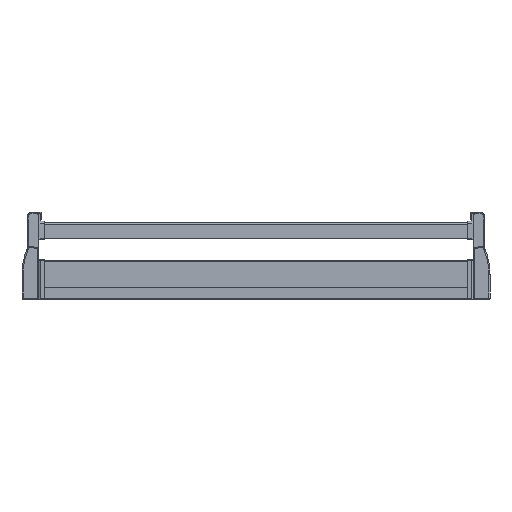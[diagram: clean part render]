
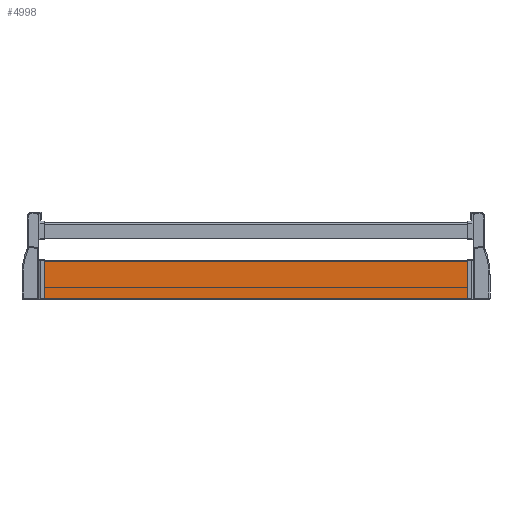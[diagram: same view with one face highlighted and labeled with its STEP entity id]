
A CAD part, top view. The second image highlights one B-rep face of the part: STEP entity #4998.
In plain terms, the highlighted planar face has unit normal (0, 0, 1).
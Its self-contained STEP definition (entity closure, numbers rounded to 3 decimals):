
#3024 = CARTESIAN_POINT ( 'NONE',  ( 385.8, -92.5, 1.4 ) ) ;
#3025 = VECTOR ( 'NONE', #3026, 1000. ) ;
#3026 = DIRECTION ( 'NONE',  ( 0., 1., 0. ) ) ;
#3027 = CARTESIAN_POINT ( 'NONE',  ( 385.8, -92.5, 1.4 ) ) ;
#3028 = LINE ( 'NONE', #3027, #3025 ) ;
#4584 = VERTEX_POINT ( 'NONE', #6757 ) ;
#4750 = EDGE_CURVE ( 'NONE', #4751, #4584, #3028, .T. ) ;
#4751 = VERTEX_POINT ( 'NONE', #3024 ) ;
#4960 = EDGE_CURVE ( 'NONE', #4991, #4996, #6943, .T. ) ;
#4972 = EDGE_CURVE ( 'NONE', #4751, #4991, #6921, .T. ) ;
#4977 = ORIENTED_EDGE ( 'NONE', *, *, #4978, .T. ) ;
#4978 = EDGE_CURVE ( 'NONE', #4584, #4996, #6971, .T. ) ;
#4981 = ORIENTED_EDGE ( 'NONE', *, *, #4960, .F. ) ;
#4991 = VERTEX_POINT ( 'NONE', #6957 ) ;
#4995 = ORIENTED_EDGE ( 'NONE', *, *, #4750, .T. ) ;
#4996 = VERTEX_POINT ( 'NONE', #7008 ) ;
#4998 = ADVANCED_FACE ( 'NONE', ( #7002 ), #7001, .F. ) ;
#5026 = EDGE_LOOP ( 'NONE', ( #5027, #4995, #4977, #4981 ) ) ;
#5027 = ORIENTED_EDGE ( 'NONE', *, *, #4972, .F. ) ;
#6757 = CARTESIAN_POINT ( 'NONE',  ( 385.8, -23., 1.4 ) ) ;
#6918 = DIRECTION ( 'NONE',  ( -1., 0., 0. ) ) ;
#6919 = VECTOR ( 'NONE', #6918, 1000. ) ;
#6920 = CARTESIAN_POINT ( 'NONE',  ( 459.556, -92.5, 1.4 ) ) ;
#6921 = LINE ( 'NONE', #6920, #6919 ) ;
#6940 = DIRECTION ( 'NONE',  ( 0., 1., 0. ) ) ;
#6941 = VECTOR ( 'NONE', #6940, 1000. ) ;
#6942 = CARTESIAN_POINT ( 'NONE',  ( -385.8, -92.5, 1.4 ) ) ;
#6943 = LINE ( 'NONE', #6942, #6941 ) ;
#6957 = CARTESIAN_POINT ( 'NONE',  ( -385.8, -92.5, 1.4 ) ) ;
#6968 = DIRECTION ( 'NONE',  ( -1., 0., 0. ) ) ;
#6969 = VECTOR ( 'NONE', #6968, 1000. ) ;
#6970 = CARTESIAN_POINT ( 'NONE',  ( 459.556, -23., 1.4 ) ) ;
#6971 = LINE ( 'NONE', #6970, #6969 ) ;
#6996 = DIRECTION ( 'NONE',  ( 0., 1., 0. ) ) ;
#6997 = DIRECTION ( 'NONE',  ( 0., 0., -1. ) ) ;
#6998 = CARTESIAN_POINT ( 'NONE',  ( 459.556, -92.5, 1.4 ) ) ;
#7000 = AXIS2_PLACEMENT_3D ( 'NONE', #6998, #6997, #6996 ) ;
#7001 = PLANE ( 'NONE',  #7000 ) ;
#7002 = FACE_OUTER_BOUND ( 'NONE', #5026, .T. ) ;
#7008 = CARTESIAN_POINT ( 'NONE',  ( -385.8, -23., 1.4 ) ) ;
